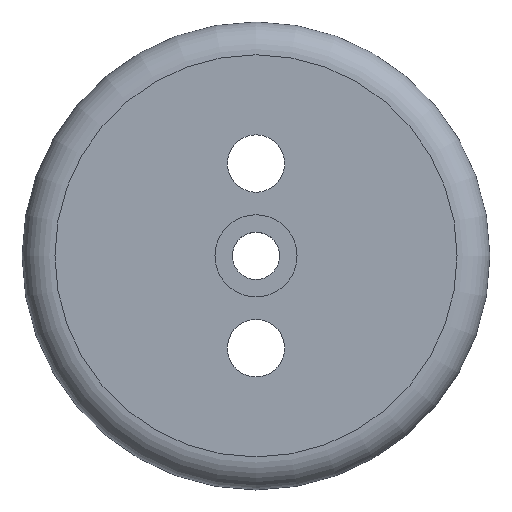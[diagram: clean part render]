
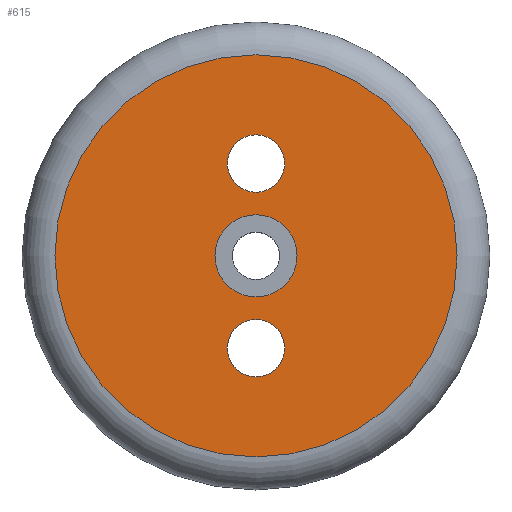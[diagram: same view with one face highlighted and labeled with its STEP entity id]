
A CAD part, top view. The second image highlights one B-rep face of the part: STEP entity #615.
In plain terms, the highlighted planar face has unit normal (0, 0, 1).
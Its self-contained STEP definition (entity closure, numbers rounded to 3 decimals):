
#257 = CYLINDRICAL_SURFACE('',#258,7.);
#258 = AXIS2_PLACEMENT_3D('',#259,#260,#261);
#259 = CARTESIAN_POINT('',(0.,-22.5,1.));
#260 = DIRECTION('',(0.,0.,-1.));
#261 = DIRECTION('',(-1.,0.,-0.));
#292 = CYLINDRICAL_SURFACE('',#293,7.);
#293 = AXIS2_PLACEMENT_3D('',#294,#295,#296);
#294 = CARTESIAN_POINT('',(0.,22.5,1.));
#295 = DIRECTION('',(0.,0.,-1.));
#296 = DIRECTION('',(-1.,0.,-0.));
#418 = VERTEX_POINT('',#419);
#419 = CARTESIAN_POINT('',(-7.,-22.5,0.));
#440 = EDGE_CURVE('',#418,#418,#441,.T.);
#441 = SURFACE_CURVE('',#442,(#447,#454),.PCURVE_S1.);
#442 = CIRCLE('',#443,7.);
#443 = AXIS2_PLACEMENT_3D('',#444,#445,#446);
#444 = CARTESIAN_POINT('',(0.,-22.5,0.));
#445 = DIRECTION('',(0.,0.,-1.));
#446 = DIRECTION('',(-1.,0.,-0.));
#447 = PCURVE('',#257,#448);
#448 = DEFINITIONAL_REPRESENTATION('',(#449),#453);
#449 = LINE('',#450,#451);
#450 = CARTESIAN_POINT('',(0.,1.));
#451 = VECTOR('',#452,1.);
#452 = DIRECTION('',(1.,0.));
#453 = ( GEOMETRIC_REPRESENTATION_CONTEXT(2) 
PARAMETRIC_REPRESENTATION_CONTEXT() REPRESENTATION_CONTEXT('2D SPACE',''
  ) );
#454 = PCURVE('',#455,#460);
#455 = PLANE('',#456);
#456 = AXIS2_PLACEMENT_3D('',#457,#458,#459);
#457 = CARTESIAN_POINT('',(0.,0.,0.));
#458 = DIRECTION('',(0.,0.,1.));
#459 = DIRECTION('',(1.,0.,-0.));
#460 = DEFINITIONAL_REPRESENTATION('',(#461),#469);
#461 = ( BOUNDED_CURVE() B_SPLINE_CURVE(2,(#462,#463,#464,#465,#466,#467
,#468),.UNSPECIFIED.,.T.,.F.) B_SPLINE_CURVE_WITH_KNOTS((1,2,2,2,2,1),(
    -2.094,0.,2.094,4.189,6.283,
8.378),.UNSPECIFIED.) CURVE() GEOMETRIC_REPRESENTATION_ITEM() 
RATIONAL_B_SPLINE_CURVE((1.,0.5,1.,0.5,1.,0.5,1.)) REPRESENTATION_ITEM(
  '') );
#462 = CARTESIAN_POINT('',(-7.,-22.5));
#463 = CARTESIAN_POINT('',(-7.,-10.376));
#464 = CARTESIAN_POINT('',(3.5,-16.438));
#465 = CARTESIAN_POINT('',(14.,-22.5));
#466 = CARTESIAN_POINT('',(3.5,-28.562));
#467 = CARTESIAN_POINT('',(-7.,-34.624));
#468 = CARTESIAN_POINT('',(-7.,-22.5));
#469 = ( GEOMETRIC_REPRESENTATION_CONTEXT(2) 
PARAMETRIC_REPRESENTATION_CONTEXT() REPRESENTATION_CONTEXT('2D SPACE',''
  ) );
#477 = VERTEX_POINT('',#478);
#478 = CARTESIAN_POINT('',(-7.,22.5,0.));
#499 = EDGE_CURVE('',#477,#477,#500,.T.);
#500 = SURFACE_CURVE('',#501,(#506,#513),.PCURVE_S1.);
#501 = CIRCLE('',#502,7.);
#502 = AXIS2_PLACEMENT_3D('',#503,#504,#505);
#503 = CARTESIAN_POINT('',(0.,22.5,0.));
#504 = DIRECTION('',(0.,0.,-1.));
#505 = DIRECTION('',(-1.,0.,-0.));
#506 = PCURVE('',#292,#507);
#507 = DEFINITIONAL_REPRESENTATION('',(#508),#512);
#508 = LINE('',#509,#510);
#509 = CARTESIAN_POINT('',(0.,1.));
#510 = VECTOR('',#511,1.);
#511 = DIRECTION('',(1.,0.));
#512 = ( GEOMETRIC_REPRESENTATION_CONTEXT(2) 
PARAMETRIC_REPRESENTATION_CONTEXT() REPRESENTATION_CONTEXT('2D SPACE',''
  ) );
#513 = PCURVE('',#455,#514);
#514 = DEFINITIONAL_REPRESENTATION('',(#515),#523);
#515 = ( BOUNDED_CURVE() B_SPLINE_CURVE(2,(#516,#517,#518,#519,#520,#521
,#522),.UNSPECIFIED.,.T.,.F.) B_SPLINE_CURVE_WITH_KNOTS((1,2,2,2,2,1),(
    -2.094,0.,2.094,4.189,6.283,
8.378),.UNSPECIFIED.) CURVE() GEOMETRIC_REPRESENTATION_ITEM() 
RATIONAL_B_SPLINE_CURVE((1.,0.5,1.,0.5,1.,0.5,1.)) REPRESENTATION_ITEM(
  '') );
#516 = CARTESIAN_POINT('',(-7.,22.5));
#517 = CARTESIAN_POINT('',(-7.,34.624));
#518 = CARTESIAN_POINT('',(3.5,28.562));
#519 = CARTESIAN_POINT('',(14.,22.5));
#520 = CARTESIAN_POINT('',(3.5,16.438));
#521 = CARTESIAN_POINT('',(-7.,10.376));
#522 = CARTESIAN_POINT('',(-7.,22.5));
#523 = ( GEOMETRIC_REPRESENTATION_CONTEXT(2) 
PARAMETRIC_REPRESENTATION_CONTEXT() REPRESENTATION_CONTEXT('2D SPACE',''
  ) );
#546 = CYLINDRICAL_SURFACE('',#547,10.);
#547 = AXIS2_PLACEMENT_3D('',#548,#549,#550);
#548 = CARTESIAN_POINT('',(0.,0.,1.));
#549 = DIRECTION('',(0.,0.,-1.));
#550 = DIRECTION('',(-1.,0.,-0.));
#615 = ADVANCED_FACE('',(#616,#647,#650,#680),#455,.T.);
#616 = FACE_BOUND('',#617,.F.);
#617 = EDGE_LOOP('',(#618));
#618 = ORIENTED_EDGE('',*,*,#619,.F.);
#619 = EDGE_CURVE('',#620,#620,#622,.T.);
#620 = VERTEX_POINT('',#621);
#621 = CARTESIAN_POINT('',(49.,0.,0.));
#622 = SURFACE_CURVE('',#623,(#628,#635),.PCURVE_S1.);
#623 = CIRCLE('',#624,49.);
#624 = AXIS2_PLACEMENT_3D('',#625,#626,#627);
#625 = CARTESIAN_POINT('',(0.,0.,0.));
#626 = DIRECTION('',(0.,-0.,1.));
#627 = DIRECTION('',(1.,0.,0.));
#628 = PCURVE('',#455,#629);
#629 = DEFINITIONAL_REPRESENTATION('',(#630),#634);
#630 = CIRCLE('',#631,49.);
#631 = AXIS2_PLACEMENT_2D('',#632,#633);
#632 = CARTESIAN_POINT('',(0.,0.));
#633 = DIRECTION('',(1.,-0.));
#634 = ( GEOMETRIC_REPRESENTATION_CONTEXT(2) 
PARAMETRIC_REPRESENTATION_CONTEXT() REPRESENTATION_CONTEXT('2D SPACE',''
  ) );
#635 = PCURVE('',#636,#641);
#636 = TOROIDAL_SURFACE('',#637,49.,8.);
#637 = AXIS2_PLACEMENT_3D('',#638,#639,#640);
#638 = CARTESIAN_POINT('',(0.,0.,-8.));
#639 = DIRECTION('',(-0.,0.,-1.));
#640 = DIRECTION('',(1.,0.,0.));
#641 = DEFINITIONAL_REPRESENTATION('',(#642),#646);
#642 = LINE('',#643,#644);
#643 = CARTESIAN_POINT('',(-0.,4.712));
#644 = VECTOR('',#645,1.);
#645 = DIRECTION('',(-1.,0.));
#646 = ( GEOMETRIC_REPRESENTATION_CONTEXT(2) 
PARAMETRIC_REPRESENTATION_CONTEXT() REPRESENTATION_CONTEXT('2D SPACE',''
  ) );
#647 = FACE_BOUND('',#648,.F.);
#648 = EDGE_LOOP('',(#649));
#649 = ORIENTED_EDGE('',*,*,#440,.F.);
#650 = FACE_BOUND('',#651,.F.);
#651 = EDGE_LOOP('',(#652));
#652 = ORIENTED_EDGE('',*,*,#653,.F.);
#653 = EDGE_CURVE('',#654,#654,#656,.T.);
#654 = VERTEX_POINT('',#655);
#655 = CARTESIAN_POINT('',(-10.,0.,0.));
#656 = SURFACE_CURVE('',#657,(#662,#673),.PCURVE_S1.);
#657 = CIRCLE('',#658,10.);
#658 = AXIS2_PLACEMENT_3D('',#659,#660,#661);
#659 = CARTESIAN_POINT('',(0.,0.,0.));
#660 = DIRECTION('',(0.,0.,-1.));
#661 = DIRECTION('',(-1.,0.,-0.));
#662 = PCURVE('',#455,#663);
#663 = DEFINITIONAL_REPRESENTATION('',(#664),#672);
#664 = ( BOUNDED_CURVE() B_SPLINE_CURVE(2,(#665,#666,#667,#668,#669,#670
,#671),.UNSPECIFIED.,.T.,.F.) B_SPLINE_CURVE_WITH_KNOTS((1,2,2,2,2,1),(
    -2.094,0.,2.094,4.189,6.283,
8.378),.UNSPECIFIED.) CURVE() GEOMETRIC_REPRESENTATION_ITEM() 
RATIONAL_B_SPLINE_CURVE((1.,0.5,1.,0.5,1.,0.5,1.)) REPRESENTATION_ITEM(
  '') );
#665 = CARTESIAN_POINT('',(-10.,0.));
#666 = CARTESIAN_POINT('',(-10.,17.321));
#667 = CARTESIAN_POINT('',(5.,8.66));
#668 = CARTESIAN_POINT('',(20.,0.));
#669 = CARTESIAN_POINT('',(5.,-8.66));
#670 = CARTESIAN_POINT('',(-10.,-17.321));
#671 = CARTESIAN_POINT('',(-10.,0.));
#672 = ( GEOMETRIC_REPRESENTATION_CONTEXT(2) 
PARAMETRIC_REPRESENTATION_CONTEXT() REPRESENTATION_CONTEXT('2D SPACE',''
  ) );
#673 = PCURVE('',#546,#674);
#674 = DEFINITIONAL_REPRESENTATION('',(#675),#679);
#675 = LINE('',#676,#677);
#676 = CARTESIAN_POINT('',(0.,1.));
#677 = VECTOR('',#678,1.);
#678 = DIRECTION('',(1.,0.));
#679 = ( GEOMETRIC_REPRESENTATION_CONTEXT(2) 
PARAMETRIC_REPRESENTATION_CONTEXT() REPRESENTATION_CONTEXT('2D SPACE',''
  ) );
#680 = FACE_BOUND('',#681,.F.);
#681 = EDGE_LOOP('',(#682));
#682 = ORIENTED_EDGE('',*,*,#499,.F.);
